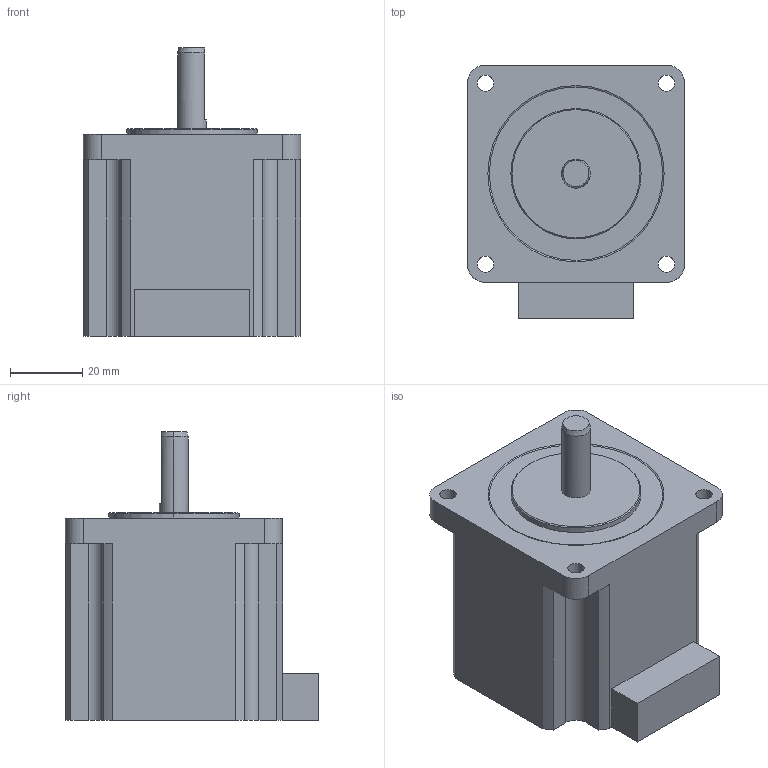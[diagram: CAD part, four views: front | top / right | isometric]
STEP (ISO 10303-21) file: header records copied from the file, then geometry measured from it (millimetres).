
FILE_DESCRIPTION (( 'STEP AP203' ), '1' );
FILE_NAME ('PMSA-U60D3_3D.STEP', '2017-01-31T07:42:16', ( 'SKJ01072' ), ( '' ), 'SwSTEP 2.0', 'SolidWorks 2014', '' );
FILE_SCHEMA (( 'CONFIG_CONTROL_DESIGN' ));
Length unit declared in the file: millimetre
Products named in the file (1): PMSA-U60D3_3D
Bounding box: 60 x 70 x 79.8 mm (x, y, z)
Volume: 185405.8 mm3; surface area: 21633.2 mm2
Topology: 1 solids, 1 shells, 64 faces, 174 edges, 115 vertices
Faces by surface type: plane 29, cylinder 28, cone 7
Entity records: 2152 total; most frequent: CARTESIAN_POINT 378, DIRECTION 369, ORIENTED_EDGE 348, EDGE_CURVE 174, AXIS2_PLACEMENT_3D 134, VERTEX_POINT 115, VECTOR 101, LINE 101
